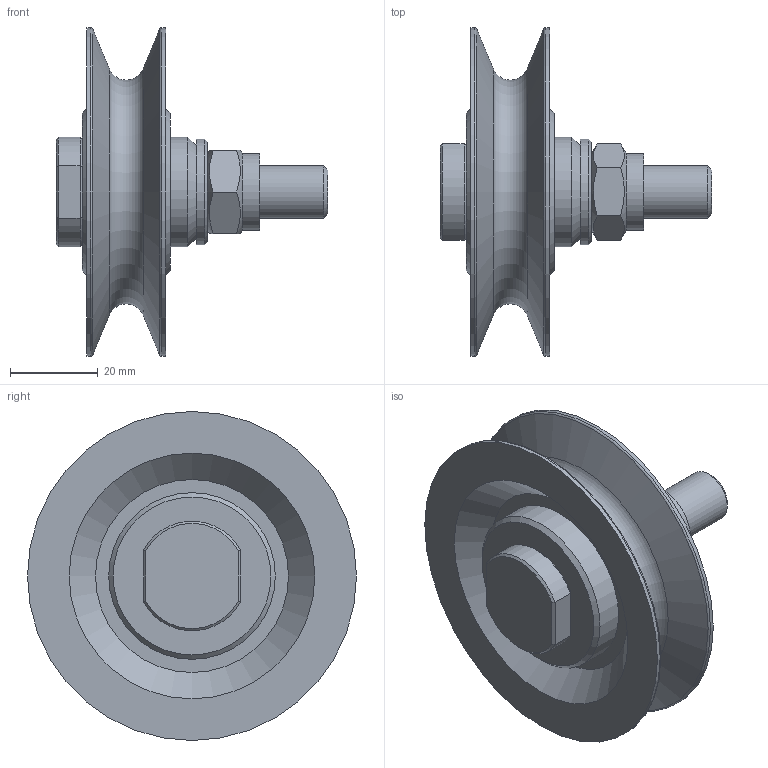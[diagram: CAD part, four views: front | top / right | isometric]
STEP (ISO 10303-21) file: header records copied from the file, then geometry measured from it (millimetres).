
FILE_DESCRIPTION(/* description */ ('Seilrolle ø75 feststehende Achse'),/* implementation_level */ '2;1');
FILE_NAME(/* name */ 'Z:\Workspace\03 Seilrollen\1.408 Seilrollen feststehende Achse Gleitlager\1.408.02 Seilrolle ø75 feststehende Achse GL\1.408.02 Seilrolle ø75 feststehende Achse.stp',/* time_stamp */ '2021-10-11T09:50:47+02:00',/* author */ ('cad-user'),/* organization */ (''),/* preprocessor_version */ 'ST-DEVELOPER v18',/* originating_system */ 'Autodesk Inventor 2020',/* authorisation */ '');
FILE_SCHEMA (('AUTOMOTIVE_DESIGN { 1 0 10303 214 3 1 1 }'));
Length unit declared in the file: millimetre
Products named in the file (8): 1.408.02 Seilrolle ø75 feststehende Achse; 1.401.02 Seilrolle ø75 Buchse komplett; 1.401.02 Seilrolle ø75 Buchse; Lagerbuchse 1220-DU; 1.408.02.01 Schraube; 1.408.02.02 Scheibe; DIN 125-1 - B 13; DIN 985 - M12
Assembly tree (7 placements, depth 3):
  1.408.02 Seilrolle ø75 feststehende Achse
    1.401.02 Seilrolle ø75 Buchse komplett
      1.401.02 Seilrolle ø75 Buchse
      Lagerbuchse 1220-DU
    1.408.02.01 Schraube
    1.408.02.02 Scheibe
    DIN 125-1 - B 13
    DIN 985 - M12
Bounding box: 62 x 75 x 75 mm (x, y, z)
Volume: 59064.1 mm3; surface area: 26826.7 mm2
Topology: 6 solids, 6 shells, 70 faces, 160 edges, 105 vertices
Faces by surface type: plane 29, cone 21, cylinder 17, torus 3
Full cylindrical faces by diameter (mm): 2.459 x1, 12 x1, 13 x2, 14 x1, 17.4 x1, 24 x1, 25 x1, 38 x2, 75 x2
Entity records: 2342 total; most frequent: CARTESIAN_POINT 406, DIRECTION 392, ORIENTED_EDGE 320, AXIS2_PLACEMENT_3D 171, EDGE_CURVE 160, VERTEX_POINT 105, CIRCLE 86, EDGE_LOOP 83
